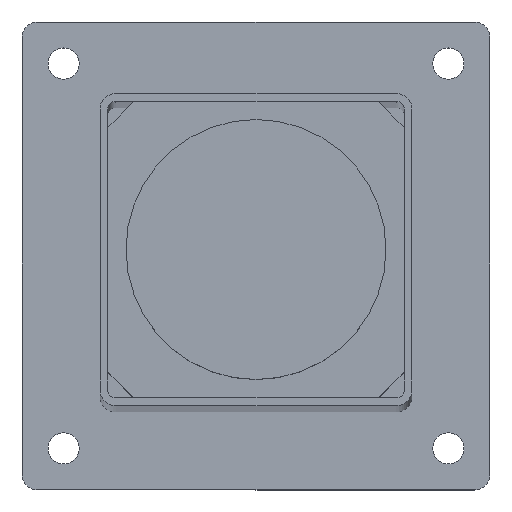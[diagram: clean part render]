
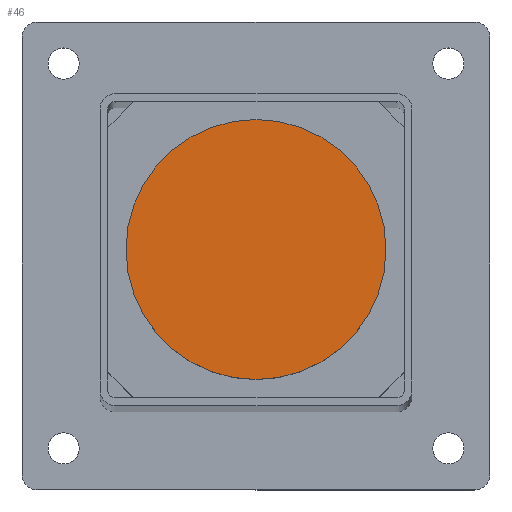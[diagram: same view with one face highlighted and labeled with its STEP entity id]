
A CAD part, top view. The second image highlights one B-rep face of the part: STEP entity #46.
In plain terms, the highlighted planar face has unit normal (0, 0, 1).
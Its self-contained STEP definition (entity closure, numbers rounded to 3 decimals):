
#24 = DIRECTION ( 'NONE',  ( -1., 0., 0. ) ) ;
#38 = FACE_OUTER_BOUND ( 'NONE', #1558, .T. ) ;
#46 = ADVANCED_FACE ( 'NONE', ( #38 ), #208, .F. ) ;
#51 = AXIS2_PLACEMENT_3D ( 'NONE', #659, #1185, #24 ) ;
#205 = ORIENTED_EDGE ( 'NONE', *, *, #1460, .F. ) ;
#208 = PLANE ( 'NONE',  #1343 ) ;
#228 = VERTEX_POINT ( 'NONE', #1540 ) ;
#300 = DIRECTION ( 'NONE',  ( 0., 0., -1. ) ) ;
#428 = DIRECTION ( 'NONE',  ( -1., 0., 0. ) ) ;
#439 = DIRECTION ( 'NONE',  ( 0., 0., -1. ) ) ;
#457 = CARTESIAN_POINT ( 'NONE',  ( 0., 0., 712. ) ) ;
#484 = EDGE_CURVE ( 'NONE', #228, #872, #1601, .T. ) ;
#659 = CARTESIAN_POINT ( 'NONE',  ( 0., 0., 712. ) ) ;
#692 = CARTESIAN_POINT ( 'NONE',  ( 0., 0., 712. ) ) ;
#720 = DIRECTION ( 'NONE',  ( -1., 0., 0. ) ) ;
#872 = VERTEX_POINT ( 'NONE', #1103 ) ;
#1103 = CARTESIAN_POINT ( 'NONE',  ( 25., 0., 712. ) ) ;
#1185 = DIRECTION ( 'NONE',  ( 0., 0., -1. ) ) ;
#1343 = AXIS2_PLACEMENT_3D ( 'NONE', #692, #300, #428 ) ;
#1445 = CIRCLE ( 'NONE', #1665, 25. ) ;
#1460 = EDGE_CURVE ( 'NONE', #872, #228, #1445, .T. ) ;
#1540 = CARTESIAN_POINT ( 'NONE',  ( -25., 0., 712. ) ) ;
#1558 = EDGE_LOOP ( 'NONE', ( #205, #1597 ) ) ;
#1597 = ORIENTED_EDGE ( 'NONE', *, *, #484, .F. ) ;
#1601 = CIRCLE ( 'NONE', #51, 25. ) ;
#1665 = AXIS2_PLACEMENT_3D ( 'NONE', #457, #439, #720 ) ;
